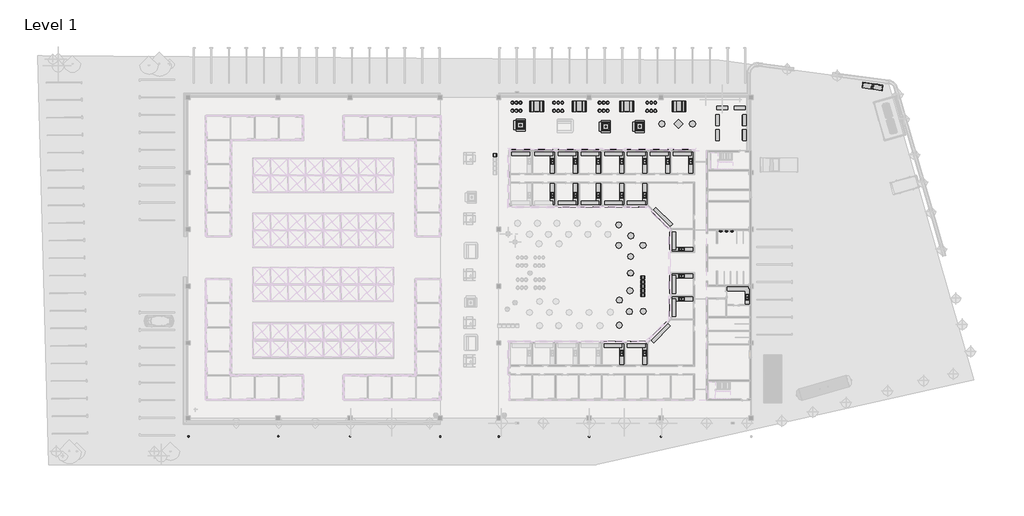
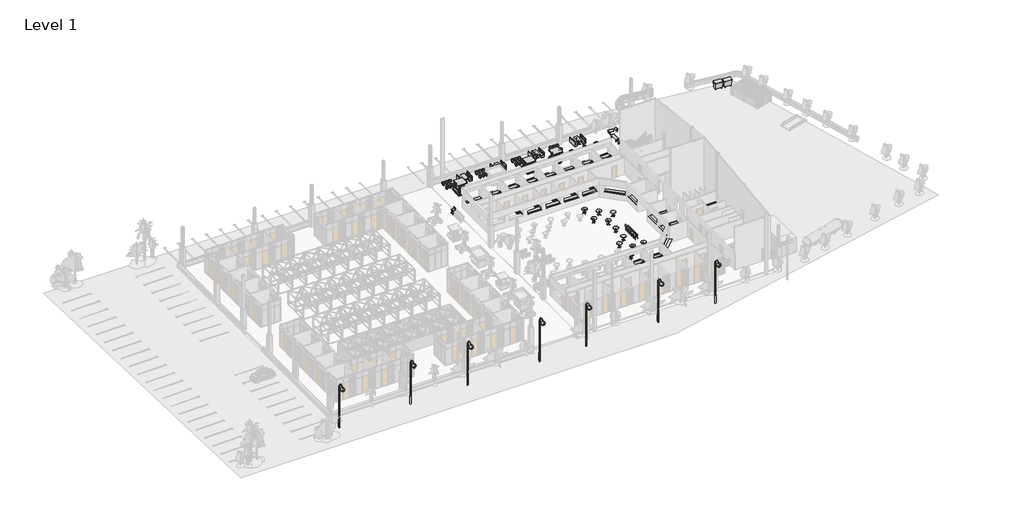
# One storey, part 30 of 32: 102 furniture elements, 21 flow terminals, 7 light fixtures, 2 proxies.
"""IFC4 building model written with IfcOpenShell, lengths in millimetres."""

from ifc_helpers import new_model, si_unit, origin, place, context, project, spatial, transform, mapped, element, save
from components import proxy_770_l_12c313d7, sink_kitchen_single_nz_760_x_535mm_626cda17, sink_kitchen_single_nz_760_x_535mm_eb015a84, urinal_wall_m_urinal_wall_m_4b0fecbf, furniture_c6f59ad9, furniture_1400_523aa014, furniture_1400_a287dd1e, furniture_500x1500_900b8abb, furniture_600mm_depth_4546873e, furniture_650x1400_aecb3e28, furniture_850x850_ff059a4b, counter_top_w_sink_nz_600mm_depth_6aa80716, counter_top_w_sink_nz_600mm_depth_e841d6a1, counter_top_island_nz_1220mm_depth_e2049a35, counter_top_island_nz_1220mm_depth_f6c0dd12, counter_top_island_nz_1220mm_depth_a1c74609, counter_top_island_nz_1220mm_depth_a1e4b738, counter_top_island_nz_1220mm_depth_33d09e76, counter_top_island_nz_1220mm_depth_cad61509, r225_brown_ebbc99b0, r225_brown_f5428c6b, r425_h750_a5844c7b, red_9dfa4864, red_3fb05847, lamp_post_modern_uk_standard_4f9459b1

model = new_model("IFC4")

# Units and contexts
model_context = context("Model", 3, world=origin())
ifc_project = project(units=[si_unit("LENGTHUNIT", "METRE", prefix="MILLI")], contexts=[model_context])

# Site, building, storey
site = spatial("IfcSite", under=ifc_project)
building = spatial("IfcBuilding", under=site)
storey = spatial("IfcBuildingStorey", under=building, Name="Level 1", Elevation=2800.0)

# Proxies
placement = place(None, origin())
proxy_770_l_shape = proxy_770_l_12c313d7(model_context)
element("IfcBuildingElementProxy", 1, Name="Generic Waste Container (4 wheels) : 770 L", ObjectType="Generic Waste Container (4 wheels) : 770 L", at=placement, inside=storey, context=model_context, shape_type="MappedRepresentation", body=[
    mapped(proxy_770_l_shape, transform((3053.7185939, 9614.9553592, 1994.8), x_axis=(0.9912453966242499, -0.1320324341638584, 0.0), y_axis=(0.1320324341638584, 0.9912453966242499, 0.0), z_axis=(0.0, 0.0, 1.0))),
])
element("IfcBuildingElementProxy", 2, Name="Generic Waste Container (4 wheels) : 770 L", ObjectType="Generic Waste Container (4 wheels) : 770 L", at=placement, inside=storey, context=model_context, shape_type="MappedRepresentation", body=[
    mapped(proxy_770_l_shape, transform((4526.159369, 9408.7418661, 1994.8), x_axis=(0.9912453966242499, -0.1320324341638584, 0.0), y_axis=(0.1320324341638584, 0.9912453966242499, 0.0), z_axis=(0.0, 0.0, 1.0))),
])

# Flow terminals
sink_kitchen_single_nz_760_x_535mm_shape = sink_kitchen_single_nz_760_x_535mm_626cda17(model_context)
element("IfcFlowTerminal", 3, ObjectType="Sink Kitchen-Single (NZ) : 760 x 535mm", at=placement, inside=storey, context=model_context, shape_type="MappedRepresentation", body=[
    mapped(sink_kitchen_single_nz_760_x_535mm_shape, transform((-13276.3159073, -19265.5588963, 2800.0), x_axis=(0.0, -1.0, 0.0), y_axis=(1.0, 0.0, 0.0), z_axis=(0.0, 0.0, 1.0))),
])
element("IfcFlowTerminal", 4, ObjectType="Sink Kitchen-Single (NZ) : 760 x 535mm", at=placement, inside=storey, context=model_context, shape_type="MappedRepresentation", body=[
    mapped(sink_kitchen_single_nz_760_x_535mm_shape, transform((-20973.8793364, -740.6307191, 2800.0), x_axis=(0.0, -1.0, 0.0), y_axis=(1.0, 0.0, 0.0), z_axis=(0.0, 0.0, 1.0))),
])
element("IfcFlowTerminal", 5, ObjectType="Sink Kitchen-Single (NZ) : 760 x 535mm", at=placement, inside=storey, context=model_context, shape_type="MappedRepresentation", body=[
    mapped(sink_kitchen_single_nz_760_x_535mm_shape, transform((-24123.8793364, -740.6307191, 2800.0), x_axis=(0.0, -1.0, 0.0), y_axis=(1.0, 0.0, 0.0), z_axis=(0.0, 0.0, 1.0))),
])
element("IfcFlowTerminal", 6, ObjectType="Sink Kitchen-Single (NZ) : 760 x 535mm", at=placement, inside=storey, context=model_context, shape_type="MappedRepresentation", body=[
    mapped(sink_kitchen_single_nz_760_x_535mm_shape, transform((-27273.8793364, -740.6307191, 2800.0), x_axis=(0.0, -1.0, 0.0), y_axis=(1.0, 0.0, 0.0), z_axis=(0.0, 0.0, 1.0))),
])
element("IfcFlowTerminal", 7, ObjectType="Sink Kitchen-Single (NZ) : 760 x 535mm", at=placement, inside=storey, context=model_context, shape_type="MappedRepresentation", body=[
    mapped(sink_kitchen_single_nz_760_x_535mm_shape, transform((-30423.8793364, -740.6307191, 2800.0), x_axis=(0.0, -1.0, 0.0), y_axis=(1.0, 0.0, 0.0), z_axis=(0.0, 0.0, 1.0))),
])
element("IfcFlowTerminal", 8, ObjectType="Sink Kitchen-Single (NZ) : 760 x 535mm", at=placement, inside=storey, context=model_context, shape_type="MappedRepresentation", body=[
    mapped(sink_kitchen_single_nz_760_x_535mm_shape, transform((-33628.2510766, -740.6307191, 2800.0), x_axis=(0.0, -1.0, 0.0), y_axis=(1.0, 0.0, 0.0), z_axis=(0.0, 0.0, 1.0))),
])
element("IfcFlowTerminal", 9, ObjectType="Sink Kitchen-Single (NZ) : 760 x 535mm", at=placement, inside=storey, context=model_context, shape_type="MappedRepresentation", body=[
    mapped(sink_kitchen_single_nz_760_x_535mm_shape, transform((-36724.2510766, -740.6307191, 2800.0), x_axis=(0.0, -1.0, 0.0), y_axis=(1.0, 0.0, 0.0), z_axis=(0.0, 0.0, 1.0))),
])
element("IfcFlowTerminal", 10, ObjectType="Sink Kitchen-Single (NZ) : 760 x 535mm", at=placement, inside=storey, context=model_context, shape_type="MappedRepresentation", body=[
    mapped(sink_kitchen_single_nz_760_x_535mm_shape, transform((-39874.2510766, -740.6307191, 2800.0), x_axis=(0.0, -1.0, 0.0), y_axis=(1.0, 0.0, 0.0), z_axis=(0.0, 0.0, 1.0))),
])
element("IfcFlowTerminal", 11, ObjectType="Sink Kitchen-Single (NZ) : 760 x 535mm", at=placement, inside=storey, context=model_context, shape_type="MappedRepresentation", body=[
    mapped(sink_kitchen_single_nz_760_x_535mm_shape, transform((-27273.8793364, -26940.6307191, 2800.0), x_axis=(0.0, -1.0, 0.0), y_axis=(1.0, 0.0, 0.0), z_axis=(0.0, 0.0, 1.0))),
])
element("IfcFlowTerminal", 12, ObjectType="Sink Kitchen-Single (NZ) : 760 x 535mm", at=placement, inside=storey, context=model_context, shape_type="MappedRepresentation", body=[
    mapped(sink_kitchen_single_nz_760_x_535mm_shape, transform((-30423.8793364, -26940.6307191, 2800.0), x_axis=(0.0, -1.0, 0.0), y_axis=(1.0, 0.0, 0.0), z_axis=(0.0, 0.0, 1.0))),
])
element("IfcFlowTerminal", 13, ObjectType="Sink Kitchen-Single (NZ) : 760 x 535mm", at=placement, inside=storey, context=model_context, shape_type="MappedRepresentation", body=[
    mapped(sink_kitchen_single_nz_760_x_535mm_shape, transform((-22301.2231758, -19518.8653607, 2800.0), x_axis=(1.0, 0.0, 0.0), y_axis=(0.0, 1.0, 0.0), z_axis=(0.0, 0.0, 1.0))),
])
element("IfcFlowTerminal", 14, ObjectType="Sink Kitchen-Single (NZ) : 760 x 535mm", at=placement, inside=storey, context=model_context, shape_type="MappedRepresentation", body=[
    mapped(sink_kitchen_single_nz_760_x_535mm_shape, transform((-22301.2231758, -16368.8653607, 2800.0), x_axis=(1.0, 0.0, 0.0), y_axis=(0.0, 1.0, 0.0), z_axis=(0.0, 0.0, 1.0))),
])
sink_kitchen_single_nz_760_x_535mm_2_shape = sink_kitchen_single_nz_760_x_535mm_eb015a84(model_context)
element("IfcFlowTerminal", 15, ObjectType="Sink Kitchen-Single (NZ) : 760 x 535mm", at=placement, inside=storey, context=model_context, shape_type="MappedRepresentation", body=[
    mapped(sink_kitchen_single_nz_760_x_535mm_2_shape, transform((-27273.8793364, -5371.2092002, 2800.0), x_axis=(0.0, 1.0, 0.0), y_axis=(-1.0, 0.0, 0.0), z_axis=(0.0, 0.0, 1.0))),
])
element("IfcFlowTerminal", 16, ObjectType="Sink Kitchen-Single (NZ) : 760 x 535mm", at=placement, inside=storey, context=model_context, shape_type="MappedRepresentation", body=[
    mapped(sink_kitchen_single_nz_760_x_535mm_2_shape, transform((-30423.8793364, -5371.2092002, 2800.0), x_axis=(0.0, 1.0, 0.0), y_axis=(-1.0, 0.0, 0.0), z_axis=(0.0, 0.0, 1.0))),
])
element("IfcFlowTerminal", 17, ObjectType="Sink Kitchen-Single (NZ) : 760 x 535mm", at=placement, inside=storey, context=model_context, shape_type="MappedRepresentation", body=[
    mapped(sink_kitchen_single_nz_760_x_535mm_2_shape, transform((-33628.2510766, -5371.2092002, 2800.0), x_axis=(0.0, 1.0, 0.0), y_axis=(-1.0, 0.0, 0.0), z_axis=(0.0, 0.0, 1.0))),
])
element("IfcFlowTerminal", 18, ObjectType="Sink Kitchen-Single (NZ) : 760 x 535mm", at=placement, inside=storey, context=model_context, shape_type="MappedRepresentation", body=[
    mapped(sink_kitchen_single_nz_760_x_535mm_2_shape, transform((-36724.2510766, -5371.2092002, 2800.0), x_axis=(0.0, 1.0, 0.0), y_axis=(-1.0, 0.0, 0.0), z_axis=(0.0, 0.0, 1.0))),
])
element("IfcFlowTerminal", 19, ObjectType="Sink Kitchen-Single (NZ) : 760 x 535mm", at=placement, inside=storey, context=model_context, shape_type="MappedRepresentation", body=[
    mapped(sink_kitchen_single_nz_760_x_535mm_2_shape, transform((-39874.2510766, -5371.2092002, 2800.0), x_axis=(0.0, 1.0, 0.0), y_axis=(-1.0, 0.0, 0.0), z_axis=(0.0, 0.0, 1.0))),
])
element("IfcFlowTerminal", 20, ObjectType="Sink Kitchen-Single (NZ) : 760 x 535mm", at=placement, inside=storey, context=model_context, shape_type="MappedRepresentation", body=[
    mapped(sink_kitchen_single_nz_760_x_535mm_2_shape, transform((-22301.2231758, -12792.9745585, 2800.0), x_axis=(1.0, 0.0, 0.0), y_axis=(0.0, 1.0, 0.0), z_axis=(0.0, 0.0, 1.0))),
])
urinal_wall_m_urinal_wall_m_shape = urinal_wall_m_urinal_wall_m_4b0fecbf(model_context)
element("IfcFlowTerminal", 21, ObjectType="Urinal-Wall (M) : Urinal-Wall (M)", at=placement, inside=storey, context=model_context, shape_type="MappedRepresentation", body=[
    mapped(urinal_wall_m_urinal_wall_m_shape, transform((-15296.2132687, -10105.9199596, 2800.0), x_axis=(1.0, 0.0, 0.0), y_axis=(0.0, 1.0, 0.0), z_axis=(0.0, 0.0, 1.0))),
])
element("IfcFlowTerminal", 22, ObjectType="Urinal-Wall (M) : Urinal-Wall (M)", at=placement, inside=storey, context=model_context, shape_type="MappedRepresentation", body=[
    mapped(urinal_wall_m_urinal_wall_m_shape, transform((-16026.2132687, -10105.9199596, 2800.0), x_axis=(1.0, 0.0, 0.0), y_axis=(0.0, 1.0, 0.0), z_axis=(0.0, 0.0, 1.0))),
])
element("IfcFlowTerminal", 23, ObjectType="Urinal-Wall (M) : Urinal-Wall (M)", at=placement, inside=storey, context=model_context, shape_type="MappedRepresentation", body=[
    mapped(urinal_wall_m_urinal_wall_m_shape, transform((-16826.2132687, -10105.9199596, 2800.0), x_axis=(1.0, 0.0, 0.0), y_axis=(0.0, 1.0, 0.0), z_axis=(0.0, 0.0, 1.0))),
])

# Furniture
furniture_shape = furniture_c6f59ad9(model_context)
element("IfcFurniture", 24, ObjectType="Mall_Kiosk_12196 : Mall_Kiosk_12196", at=placement, inside=storey, context=model_context, shape_type="MappedRepresentation", body=[
    mapped(furniture_shape, transform((-44260.9339353, 4534.4291691, 2800.0), x_axis=(0.0, -1.0, 0.0), y_axis=(1.0, 0.0, 0.0), z_axis=(0.0, 0.0, 1.0))),
])
element("IfcFurniture", 25, ObjectType="Mall_Kiosk_12196 : Mall_Kiosk_12196", at=placement, inside=storey, context=model_context, shape_type="MappedRepresentation", body=[
    mapped(furniture_shape, transform((-32610.9339353, 4325.21801, 2800.0), x_axis=(0.0, -1.0, 0.0), y_axis=(1.0, 0.0, 0.0), z_axis=(0.0, 0.0, 1.0))),
])
element("IfcFurniture", 26, ObjectType="Mall_Kiosk_12196 : Mall_Kiosk_12196", at=placement, inside=storey, context=model_context, shape_type="MappedRepresentation", body=[
    mapped(furniture_shape, transform((-28010.9339353, 4344.2372062, 2800.0), x_axis=(0.0, -1.0, 0.0), y_axis=(1.0, 0.0, 0.0), z_axis=(0.0, 0.0, 1.0))),
])
furniture_1400_shape = furniture_1400_523aa014(model_context)
element("IfcFurniture", 27, ObjectType="TN.RES.Bench04 : 1400", at=placement, inside=storey, context=model_context, shape_type="MappedRepresentation", body=[
    mapped(furniture_1400_shape, transform((-23560.9339353, 6092.0800404, 2800.0), x_axis=(0.0, 1.0, 0.0), y_axis=(-1.0, 0.0, 0.0), z_axis=(0.0, 0.0, 1.0))),
])
element("IfcFurniture", 28, ObjectType="TN.RES.Bench04 : 1400", at=placement, inside=storey, context=model_context, shape_type="MappedRepresentation", body=[
    mapped(furniture_1400_shape, transform((-30691.591055, 6092.0800404, 2800.0), x_axis=(0.0, 1.0, 0.0), y_axis=(-1.0, 0.0, 0.0), z_axis=(0.0, 0.0, 1.0))),
])
element("IfcFurniture", 29, ObjectType="TN.RES.Bench04 : 1400", at=placement, inside=storey, context=model_context, shape_type="MappedRepresentation", body=[
    mapped(furniture_1400_shape, transform((-37191.591055, 6092.0800404, 2800.0), x_axis=(0.0, 1.0, 0.0), y_axis=(-1.0, 0.0, 0.0), z_axis=(0.0, 0.0, 1.0))),
])
element("IfcFurniture", 30, ObjectType="TN.RES.Bench04 : 1400", at=placement, inside=storey, context=model_context, shape_type="MappedRepresentation", body=[
    mapped(furniture_1400_shape, transform((-42991.591055, 6092.0800404, 2800.0), x_axis=(0.0, 1.0, 0.0), y_axis=(-1.0, 0.0, 0.0), z_axis=(0.0, 0.0, 1.0))),
])
furniture_1400_2_shape = furniture_1400_a287dd1e(model_context)
element("IfcFurniture", 31, ObjectType="TN.RES.Bench04 : 1400", at=placement, inside=storey, context=model_context, shape_type="MappedRepresentation", body=[
    mapped(furniture_1400_2_shape, transform((-21680.2768155, 6092.0800404, 2800.0), x_axis=(0.0, 1.0, 0.0), y_axis=(-1.0, 0.0, 0.0), z_axis=(0.0, 0.0, 1.0))),
])
element("IfcFurniture", 32, ObjectType="TN.RES.Bench04 : 1400", at=placement, inside=storey, context=model_context, shape_type="MappedRepresentation", body=[
    mapped(furniture_1400_2_shape, transform((-28810.9339353, 6092.0800404, 2800.0), x_axis=(0.0, 1.0, 0.0), y_axis=(-1.0, 0.0, 0.0), z_axis=(0.0, 0.0, 1.0))),
])
element("IfcFurniture", 33, ObjectType="TN.RES.Bench04 : 1400", at=placement, inside=storey, context=model_context, shape_type="MappedRepresentation", body=[
    mapped(furniture_1400_2_shape, transform((-35310.9339353, 6092.0800404, 2800.0), x_axis=(0.0, 1.0, 0.0), y_axis=(-1.0, 0.0, 0.0), z_axis=(0.0, 0.0, 1.0))),
])
element("IfcFurniture", 34, ObjectType="TN.RES.Bench04 : 1400", at=placement, inside=storey, context=model_context, shape_type="MappedRepresentation", body=[
    mapped(furniture_1400_2_shape, transform((-41110.9339353, 6092.0800404, 2800.0), x_axis=(0.0, 1.0, 0.0), y_axis=(-1.0, 0.0, 0.0), z_axis=(0.0, 0.0, 1.0))),
])
furniture_500x1500_shape = furniture_500x1500_900b8abb(model_context)
element("IfcFurniture", 35, ObjectType="TN.RES.Bench01 : 500x1500", at=placement, inside=storey, context=model_context, shape_type="MappedRepresentation", body=[
    mapped(furniture_500x1500_shape, transform((-13460.7705062, 3624.5434969, 2800.0), x_axis=(0.0, -1.0, 0.0), y_axis=(1.0, 0.0, 0.0), z_axis=(0.0, 0.0, 1.0))),
])
element("IfcFurniture", 36, ObjectType="TN.RES.Bench01 : 500x1500", at=placement, inside=storey, context=model_context, shape_type="MappedRepresentation", body=[
    mapped(furniture_500x1500_shape, transform((-13460.7705062, 5644.0800404, 2800.0), x_axis=(0.0, -1.0, 0.0), y_axis=(1.0, 0.0, 0.0), z_axis=(0.0, 0.0, 1.0))),
])
element("IfcFurniture", 37, ObjectType="TN.RES.Bench01 : 500x1500", at=placement, inside=storey, context=model_context, shape_type="MappedRepresentation", body=[
    mapped(furniture_500x1500_shape, transform((-15060.7705062, 6844.0800404, 2800.0), x_axis=(1.0, 0.0, 0.0), y_axis=(0.0, 1.0, 0.0), z_axis=(0.0, 0.0, 1.0))),
])
element("IfcFurniture", 38, ObjectType="TN.RES.Bench01 : 500x1500", at=placement, inside=storey, context=model_context, shape_type="MappedRepresentation", body=[
    mapped(furniture_500x1500_shape, transform((-17126.943551, 3624.5434969, 2800.0), x_axis=(0.0, -1.0, 0.0), y_axis=(1.0, 0.0, 0.0), z_axis=(0.0, 0.0, 1.0))),
])
element("IfcFurniture", 39, ObjectType="TN.RES.Bench01 : 500x1500", at=placement, inside=storey, context=model_context, shape_type="MappedRepresentation", body=[
    mapped(furniture_500x1500_shape, transform((-17126.943551, 5644.0800404, 2800.0), x_axis=(0.0, -1.0, 0.0), y_axis=(1.0, 0.0, 0.0), z_axis=(0.0, 0.0, 1.0))),
])
element("IfcFurniture", 40, ObjectType="TN.RES.Bench01 : 500x1500", at=placement, inside=storey, context=model_context, shape_type="MappedRepresentation", body=[
    mapped(furniture_500x1500_shape, transform((-17460.7705062, 6844.0800404, 2800.0), x_axis=(1.0, 0.0, 0.0), y_axis=(0.0, 1.0, 0.0), z_axis=(0.0, 0.0, 1.0))),
])
furniture_600mm_depth_shape = furniture_600mm_depth_4546873e(model_context)
element("IfcFurniture", 41, ObjectType="Counter Top-L Shaped w Sink (NZ) : 600mm Depth", at=placement, inside=storey, context=model_context, shape_type="MappedRepresentation", body=[
    mapped(furniture_600mm_depth_shape, transform((-12960.7705062, -19006.3822547, 2800.0), x_axis=(0.0, -1.0, 0.0), y_axis=(1.0, 0.0, 0.0), z_axis=(0.0, 0.0, 1.0))),
])
furniture_650x1400_shape = furniture_650x1400_aecb3e28(model_context)
element("IfcFurniture", 42, ObjectType="TN.RES.Table02 : 650x1400", at=placement, inside=storey, context=model_context, shape_type="MappedRepresentation", body=[
    mapped(furniture_650x1400_shape, transform((-22620.6053754, 6794.0800404, 2800.0), x_axis=(0.0, -1.0, 0.0), y_axis=(1.0, 0.0, 0.0), z_axis=(0.0, 0.0, 1.0))),
])
element("IfcFurniture", 43, ObjectType="TN.RES.Table02 : 650x1400", at=placement, inside=storey, context=model_context, shape_type="MappedRepresentation", body=[
    mapped(furniture_650x1400_shape, transform((-29751.2624952, 6794.0800404, 2800.0), x_axis=(0.0, -1.0, 0.0), y_axis=(1.0, 0.0, 0.0), z_axis=(0.0, 0.0, 1.0))),
])
element("IfcFurniture", 44, ObjectType="TN.RES.Table02 : 650x1400", at=placement, inside=storey, context=model_context, shape_type="MappedRepresentation", body=[
    mapped(furniture_650x1400_shape, transform((-36251.2624952, 6794.0800404, 2800.0), x_axis=(0.0, -1.0, 0.0), y_axis=(1.0, 0.0, 0.0), z_axis=(0.0, 0.0, 1.0))),
])
element("IfcFurniture", 45, ObjectType="TN.RES.Table02 : 650x1400", at=placement, inside=storey, context=model_context, shape_type="MappedRepresentation", body=[
    mapped(furniture_650x1400_shape, transform((-42051.2624952, 6794.0800404, 2800.0), x_axis=(0.0, -1.0, 0.0), y_axis=(1.0, 0.0, 0.0), z_axis=(0.0, 0.0, 1.0))),
])
furniture_850x850_shape = furniture_850x850_ff059a4b(model_context)
element("IfcFurniture", 46, ObjectType="TN.RES.Table01 : 850x850", at=placement, inside=storey, context=model_context, shape_type="MappedRepresentation", body=[
    mapped(furniture_850x850_shape, transform((-22701.9274074, 4395.5407497, 2800.0), x_axis=(-0.7071067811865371, 0.707106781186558, 0.0), y_axis=(-0.707106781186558, -0.7071067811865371, 0.0), z_axis=(0.0, 0.0, 1.0))),
])
counter_top_w_sink_nz_600mm_depth_shape = counter_top_w_sink_nz_600mm_depth_6aa80716(model_context)
element("IfcFurniture", 47, ObjectType="Counter Top w Sink (NZ) : 600mm Depth", at=placement, inside=storey, context=model_context, shape_type="MappedRepresentation", body=[
    mapped(counter_top_w_sink_nz_600mm_depth_shape, transform((-20660.9339353, -606.3822547, 2800.0), x_axis=(0.0, -1.0, 0.0), y_axis=(1.0, 0.0, 0.0), z_axis=(0.0, 0.0, 1.0))),
])
element("IfcFurniture", 48, ObjectType="Counter Top w Sink (NZ) : 600mm Depth", at=placement, inside=storey, context=model_context, shape_type="MappedRepresentation", body=[
    mapped(counter_top_w_sink_nz_600mm_depth_shape, transform((-23810.9339353, -606.3822547, 2800.0), x_axis=(0.0, -1.0, 0.0), y_axis=(1.0, 0.0, 0.0), z_axis=(0.0, 0.0, 1.0))),
])
element("IfcFurniture", 49, ObjectType="Counter Top w Sink (NZ) : 600mm Depth", at=placement, inside=storey, context=model_context, shape_type="MappedRepresentation", body=[
    mapped(counter_top_w_sink_nz_600mm_depth_shape, transform((-26960.9339353, -606.3822547, 2800.0), x_axis=(0.0, -1.0, 0.0), y_axis=(1.0, 0.0, 0.0), z_axis=(0.0, 0.0, 1.0))),
])
element("IfcFurniture", 50, ObjectType="Counter Top w Sink (NZ) : 600mm Depth", at=placement, inside=storey, context=model_context, shape_type="MappedRepresentation", body=[
    mapped(counter_top_w_sink_nz_600mm_depth_shape, transform((-30110.9339353, -606.3822547, 2800.0), x_axis=(0.0, -1.0, 0.0), y_axis=(1.0, 0.0, 0.0), z_axis=(0.0, 0.0, 1.0))),
])
element("IfcFurniture", 51, ObjectType="Counter Top w Sink (NZ) : 600mm Depth", at=placement, inside=storey, context=model_context, shape_type="MappedRepresentation", body=[
    mapped(counter_top_w_sink_nz_600mm_depth_shape, transform((-33315.3056755, -606.3822547, 2800.0), x_axis=(0.0, -1.0, 0.0), y_axis=(1.0, 0.0, 0.0), z_axis=(0.0, 0.0, 1.0))),
])
element("IfcFurniture", 52, ObjectType="Counter Top w Sink (NZ) : 600mm Depth", at=placement, inside=storey, context=model_context, shape_type="MappedRepresentation", body=[
    mapped(counter_top_w_sink_nz_600mm_depth_shape, transform((-36411.3056755, -606.3822547, 2800.0), x_axis=(0.0, -1.0, 0.0), y_axis=(1.0, 0.0, 0.0), z_axis=(0.0, 0.0, 1.0))),
])
element("IfcFurniture", 53, ObjectType="Counter Top w Sink (NZ) : 600mm Depth", at=placement, inside=storey, context=model_context, shape_type="MappedRepresentation", body=[
    mapped(counter_top_w_sink_nz_600mm_depth_shape, transform((-39561.3056755, -606.3822547, 2800.0), x_axis=(0.0, -1.0, 0.0), y_axis=(1.0, 0.0, 0.0), z_axis=(0.0, 0.0, 1.0))),
])
element("IfcFurniture", 54, ObjectType="Counter Top w Sink (NZ) : 600mm Depth", at=placement, inside=storey, context=model_context, shape_type="MappedRepresentation", body=[
    mapped(counter_top_w_sink_nz_600mm_depth_shape, transform((-26960.9339353, -26806.3822547, 2800.0), x_axis=(0.0, -1.0, 0.0), y_axis=(1.0, 0.0, 0.0), z_axis=(0.0, 0.0, 1.0))),
])
element("IfcFurniture", 55, ObjectType="Counter Top w Sink (NZ) : 600mm Depth", at=placement, inside=storey, context=model_context, shape_type="MappedRepresentation", body=[
    mapped(counter_top_w_sink_nz_600mm_depth_shape, transform((-30110.9339353, -26806.3822547, 2800.0), x_axis=(0.0, -1.0, 0.0), y_axis=(1.0, 0.0, 0.0), z_axis=(0.0, 0.0, 1.0))),
])
element("IfcFurniture", 56, ObjectType="Counter Top w Sink (NZ) : 600mm Depth", at=placement, inside=storey, context=model_context, shape_type="MappedRepresentation", body=[
    mapped(counter_top_w_sink_nz_600mm_depth_shape, transform((-22435.4716402, -19205.9199596, 2800.0), x_axis=(1.0, 0.0, 0.0), y_axis=(0.0, 1.0, 0.0), z_axis=(0.0, 0.0, 1.0))),
])
element("IfcFurniture", 57, ObjectType="Counter Top w Sink (NZ) : 600mm Depth", at=placement, inside=storey, context=model_context, shape_type="MappedRepresentation", body=[
    mapped(counter_top_w_sink_nz_600mm_depth_shape, transform((-22435.4716402, -16055.9199596, 2800.0), x_axis=(1.0, 0.0, 0.0), y_axis=(0.0, 1.0, 0.0), z_axis=(0.0, 0.0, 1.0))),
])
counter_top_w_sink_nz_600mm_depth_2_shape = counter_top_w_sink_nz_600mm_depth_e841d6a1(model_context)
element("IfcFurniture", 58, ObjectType="Counter Top w Sink (NZ) : 600mm Depth", at=placement, inside=storey, context=model_context, shape_type="MappedRepresentation", body=[
    mapped(counter_top_w_sink_nz_600mm_depth_2_shape, transform((-26960.9339353, -5505.4576645, 2800.0), x_axis=(0.0, 1.0, 0.0), y_axis=(-1.0, 0.0, 0.0), z_axis=(0.0, 0.0, 1.0))),
])
element("IfcFurniture", 59, ObjectType="Counter Top w Sink (NZ) : 600mm Depth", at=placement, inside=storey, context=model_context, shape_type="MappedRepresentation", body=[
    mapped(counter_top_w_sink_nz_600mm_depth_2_shape, transform((-30110.9339353, -5505.4576645, 2800.0), x_axis=(0.0, 1.0, 0.0), y_axis=(-1.0, 0.0, 0.0), z_axis=(0.0, 0.0, 1.0))),
])
element("IfcFurniture", 60, ObjectType="Counter Top w Sink (NZ) : 600mm Depth", at=placement, inside=storey, context=model_context, shape_type="MappedRepresentation", body=[
    mapped(counter_top_w_sink_nz_600mm_depth_2_shape, transform((-33315.3056755, -5505.4576645, 2800.0), x_axis=(0.0, 1.0, 0.0), y_axis=(-1.0, 0.0, 0.0), z_axis=(0.0, 0.0, 1.0))),
])
element("IfcFurniture", 61, ObjectType="Counter Top w Sink (NZ) : 600mm Depth", at=placement, inside=storey, context=model_context, shape_type="MappedRepresentation", body=[
    mapped(counter_top_w_sink_nz_600mm_depth_2_shape, transform((-36411.3056755, -5505.4576645, 2800.0), x_axis=(0.0, 1.0, 0.0), y_axis=(-1.0, 0.0, 0.0), z_axis=(0.0, 0.0, 1.0))),
])
element("IfcFurniture", 62, ObjectType="Counter Top w Sink (NZ) : 600mm Depth", at=placement, inside=storey, context=model_context, shape_type="MappedRepresentation", body=[
    mapped(counter_top_w_sink_nz_600mm_depth_2_shape, transform((-39561.3056755, -5505.4576645, 2800.0), x_axis=(0.0, 1.0, 0.0), y_axis=(-1.0, 0.0, 0.0), z_axis=(0.0, 0.0, 1.0))),
])
element("IfcFurniture", 63, ObjectType="Counter Top w Sink (NZ) : 600mm Depth", at=placement, inside=storey, context=model_context, shape_type="MappedRepresentation", body=[
    mapped(counter_top_w_sink_nz_600mm_depth_2_shape, transform((-22435.4716402, -13105.9199596, 2800.0), x_axis=(1.0, 0.0, 0.0), y_axis=(0.0, 1.0, 0.0), z_axis=(0.0, 0.0, 1.0))),
])
counter_top_island_nz_1220mm_depth_shape = counter_top_island_nz_1220mm_depth_e2049a35(model_context)
element("IfcFurniture", 64, ObjectType="Counter Top-Island (NZ) : 1220mm Depth", at=placement, inside=storey, context=model_context, shape_type="MappedRepresentation", body=[
    mapped(counter_top_island_nz_1220mm_depth_shape, transform((-25311.3962304, 79.0800404, 3100.0), x_axis=(-1.0, 0.0, 0.0), y_axis=(0.0, -1.0, 0.0), z_axis=(0.0, 0.0, 1.0))),
])
element("IfcFurniture", 65, ObjectType="Counter Top-Island (NZ) : 1220mm Depth", at=placement, inside=storey, context=model_context, shape_type="MappedRepresentation", body=[
    mapped(counter_top_island_nz_1220mm_depth_shape, transform((-28436.3962304, 79.0800404, 3100.0), x_axis=(-1.0, 0.0, 0.0), y_axis=(0.0, -1.0, 0.0), z_axis=(0.0, 0.0, 1.0))),
])
element("IfcFurniture", 66, ObjectType="Counter Top-Island (NZ) : 1220mm Depth", at=placement, inside=storey, context=model_context, shape_type="MappedRepresentation", body=[
    mapped(counter_top_island_nz_1220mm_depth_shape, transform((-31566.3962304, 79.0800404, 3100.0), x_axis=(-1.0, 0.0, 0.0), y_axis=(0.0, -1.0, 0.0), z_axis=(0.0, 0.0, 1.0))),
])
element("IfcFurniture", 67, ObjectType="Counter Top-Island (NZ) : 1220mm Depth", at=placement, inside=storey, context=model_context, shape_type="MappedRepresentation", body=[
    mapped(counter_top_island_nz_1220mm_depth_shape, transform((-34761.3962304, 79.0800404, 3100.0), x_axis=(-1.0, 0.0, 0.0), y_axis=(0.0, -1.0, 0.0), z_axis=(0.0, 0.0, 1.0))),
])
element("IfcFurniture", 68, ObjectType="Counter Top-Island (NZ) : 1220mm Depth", at=placement, inside=storey, context=model_context, shape_type="MappedRepresentation", body=[
    mapped(counter_top_island_nz_1220mm_depth_shape, transform((-37907.3962304, 79.0800404, 3100.0), x_axis=(-1.0, 0.0, 0.0), y_axis=(0.0, -1.0, 0.0), z_axis=(0.0, 0.0, 1.0))),
])
element("IfcFurniture", 69, ObjectType="Counter Top-Island (NZ) : 1220mm Depth", at=placement, inside=storey, context=model_context, shape_type="MappedRepresentation", body=[
    mapped(counter_top_island_nz_1220mm_depth_shape, transform((-41086.7679705, 79.0800404, 3100.0), x_axis=(-1.0, 0.0, 0.0), y_axis=(0.0, -1.0, 0.0), z_axis=(0.0, 0.0, 1.0))),
])
element("IfcFurniture", 70, ObjectType="Counter Top-Island (NZ) : 1220mm Depth", at=placement, inside=storey, context=model_context, shape_type="MappedRepresentation", body=[
    mapped(counter_top_island_nz_1220mm_depth_shape, transform((-44207.3962304, 79.0800404, 3100.0), x_axis=(-1.0, 0.0, 0.0), y_axis=(0.0, -1.0, 0.0), z_axis=(0.0, 0.0, 1.0))),
])
element("IfcFurniture", 71, ObjectType="Counter Top-Island (NZ) : 1220mm Depth", at=placement, inside=storey, context=model_context, shape_type="MappedRepresentation", body=[
    mapped(counter_top_island_nz_1220mm_depth_shape, transform((-22161.3962304, 79.0800404, 3100.0), x_axis=(-1.0, 0.0, 0.0), y_axis=(0.0, -1.0, 0.0), z_axis=(0.0, 0.0, 1.0))),
])
counter_top_island_nz_1220mm_depth_2_shape = counter_top_island_nz_1220mm_depth_f6c0dd12(model_context)
element("IfcFurniture", 72, ObjectType="Counter Top-Island (NZ) : 1220mm Depth", at=placement, inside=storey, context=model_context, shape_type="MappedRepresentation", body=[
    mapped(counter_top_island_nz_1220mm_depth_2_shape, transform((-28436.3962304, -6190.9199596, 3100.0), x_axis=(-1.0, 0.0, 0.0), y_axis=(0.0, -1.0, 0.0), z_axis=(0.0, 0.0, 1.0))),
])
element("IfcFurniture", 73, ObjectType="Counter Top-Island (NZ) : 1220mm Depth", at=placement, inside=storey, context=model_context, shape_type="MappedRepresentation", body=[
    mapped(counter_top_island_nz_1220mm_depth_2_shape, transform((-31566.3962304, -6190.9199596, 3100.0), x_axis=(-1.0, 0.0, 0.0), y_axis=(0.0, -1.0, 0.0), z_axis=(0.0, 0.0, 1.0))),
])
element("IfcFurniture", 74, ObjectType="Counter Top-Island (NZ) : 1220mm Depth", at=placement, inside=storey, context=model_context, shape_type="MappedRepresentation", body=[
    mapped(counter_top_island_nz_1220mm_depth_2_shape, transform((-34761.3962304, -6190.9199596, 3100.0), x_axis=(-1.0, 0.0, 0.0), y_axis=(0.0, -1.0, 0.0), z_axis=(0.0, 0.0, 1.0))),
])
element("IfcFurniture", 75, ObjectType="Counter Top-Island (NZ) : 1220mm Depth", at=placement, inside=storey, context=model_context, shape_type="MappedRepresentation", body=[
    mapped(counter_top_island_nz_1220mm_depth_2_shape, transform((-37907.3962304, -6190.9199596, 3100.0), x_axis=(-1.0, 0.0, 0.0), y_axis=(0.0, -1.0, 0.0), z_axis=(0.0, 0.0, 1.0))),
])
counter_top_island_nz_1220mm_depth_3_shape = counter_top_island_nz_1220mm_depth_a1c74609(model_context)
element("IfcFurniture", 76, ObjectType="Counter Top-Island (NZ) : 1220mm Depth", at=placement, inside=storey, context=model_context, shape_type="MappedRepresentation", body=[
    mapped(counter_top_island_nz_1220mm_depth_3_shape, transform((-28461.3962304, -26120.9199596, 3100.0), x_axis=(-1.0, 0.0, 0.0), y_axis=(0.0, -1.0, 0.0), z_axis=(0.0, 0.0, 1.0))),
])
element("IfcFurniture", 77, ObjectType="Counter Top-Island (NZ) : 1220mm Depth", at=placement, inside=storey, context=model_context, shape_type="MappedRepresentation", body=[
    mapped(counter_top_island_nz_1220mm_depth_3_shape, transform((-31611.3962304, -26120.9199596, 3100.0), x_axis=(-1.0, 0.0, 0.0), y_axis=(0.0, -1.0, 0.0), z_axis=(0.0, 0.0, 1.0))),
])
element("IfcFurniture", 78, ObjectType="Counter Top-Island (NZ) : 1220mm Depth", at=placement, inside=storey, context=model_context, shape_type="MappedRepresentation", body=[
    mapped(counter_top_island_nz_1220mm_depth_3_shape, transform((-23120.9339353, -20706.3822547, 3100.0), x_axis=(0.0, -1.0, 0.0), y_axis=(1.0, 0.0, 0.0), z_axis=(0.0, 0.0, 1.0))),
])
element("IfcFurniture", 79, ObjectType="Counter Top-Island (NZ) : 1220mm Depth", at=placement, inside=storey, context=model_context, shape_type="MappedRepresentation", body=[
    mapped(counter_top_island_nz_1220mm_depth_3_shape, transform((-23120.9339353, -17556.3822547, 3100.0), x_axis=(0.0, -1.0, 0.0), y_axis=(1.0, 0.0, 0.0), z_axis=(0.0, 0.0, 1.0))),
])
counter_top_island_nz_1220mm_depth_4_shape = counter_top_island_nz_1220mm_depth_a1e4b738(model_context)
element("IfcFurniture", 80, ObjectType="Counter Top-Island (NZ) : 1220mm Depth", at=placement, inside=storey, context=model_context, shape_type="MappedRepresentation", body=[
    mapped(counter_top_island_nz_1220mm_depth_4_shape, transform((-23120.9339353, -11605.4576645, 3100.0), x_axis=(0.0, 1.0, 0.0), y_axis=(-1.0, 0.0, 0.0), z_axis=(0.0, 0.0, 1.0))),
])
counter_top_island_nz_1220mm_depth_5_shape = counter_top_island_nz_1220mm_depth_33d09e76(model_context)
element("IfcFurniture", 81, ObjectType="Counter Top-Island (NZ) : 1220mm Depth", at=placement, inside=storey, context=model_context, shape_type="MappedRepresentation", body=[
    mapped(counter_top_island_nz_1220mm_depth_5_shape, transform((-24670.9471862, -24076.7701545, 3100.0), x_axis=(-0.7071067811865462, -0.707106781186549, 0.0), y_axis=(0.707106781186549, -0.7071067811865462, 0.0), z_axis=(0.0, 0.0, 1.0))),
])
counter_top_island_nz_1220mm_depth_6_shape = counter_top_island_nz_1220mm_depth_cad61509(model_context)
element("IfcFurniture", 82, ObjectType="Counter Top-Island (NZ) : 1220mm Depth", at=placement, inside=storey, context=model_context, shape_type="MappedRepresentation", body=[
    mapped(counter_top_island_nz_1220mm_depth_6_shape, transform((-24379.6385236, -8448.1869021, 3100.0), x_axis=(-0.7071067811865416, 0.7071067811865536, 0.0), y_axis=(-0.7071067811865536, -0.7071067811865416, 0.0), z_axis=(0.0, 0.0, 1.0))),
])
r225_brown_shape = r225_brown_ebbc99b0(model_context)
element("IfcFurniture", 83, ObjectType="TN.RES.Stool01 : R225 Brown", at=placement, inside=storey, context=model_context, shape_type="MappedRepresentation", body=[
    mapped(r225_brown_shape, transform((-25870.9339353, 7294.0800404, 2800.0), x_axis=(-1.0, 0.0, 0.0), y_axis=(0.0, -1.0, 0.0), z_axis=(0.0, 0.0, 1.0))),
])
element("IfcFurniture", 84, ObjectType="TN.RES.Stool01 : R225 Brown", at=placement, inside=storey, context=model_context, shape_type="MappedRepresentation", body=[
    mapped(r225_brown_shape, transform((-26420.9339353, 7294.0800404, 2800.0), x_axis=(-1.0, 0.0, 0.0), y_axis=(0.0, -1.0, 0.0), z_axis=(0.0, 0.0, 1.0))),
])
element("IfcFurniture", 85, ObjectType="TN.RES.Stool01 : R225 Brown", at=placement, inside=storey, context=model_context, shape_type="MappedRepresentation", body=[
    mapped(r225_brown_shape, transform((-26970.9339353, 7294.0800404, 2800.0), x_axis=(-1.0, 0.0, 0.0), y_axis=(0.0, -1.0, 0.0), z_axis=(0.0, 0.0, 1.0))),
])
element("IfcFurniture", 86, ObjectType="TN.RES.Stool01 : R225 Brown", at=placement, inside=storey, context=model_context, shape_type="MappedRepresentation", body=[
    mapped(r225_brown_shape, transform((-32370.9339353, 7294.0800404, 2800.0), x_axis=(-1.0, 0.0, 0.0), y_axis=(0.0, -1.0, 0.0), z_axis=(0.0, 0.0, 1.0))),
])
element("IfcFurniture", 87, ObjectType="TN.RES.Stool01 : R225 Brown", at=placement, inside=storey, context=model_context, shape_type="MappedRepresentation", body=[
    mapped(r225_brown_shape, transform((-32920.9339353, 7294.0800404, 2800.0), x_axis=(-1.0, 0.0, 0.0), y_axis=(0.0, -1.0, 0.0), z_axis=(0.0, 0.0, 1.0))),
])
element("IfcFurniture", 88, ObjectType="TN.RES.Stool01 : R225 Brown", at=placement, inside=storey, context=model_context, shape_type="MappedRepresentation", body=[
    mapped(r225_brown_shape, transform((-33470.9339353, 7294.0800404, 2800.0), x_axis=(-1.0, 0.0, 0.0), y_axis=(0.0, -1.0, 0.0), z_axis=(0.0, 0.0, 1.0))),
])
element("IfcFurniture", 89, ObjectType="TN.RES.Stool01 : R225 Brown", at=placement, inside=storey, context=model_context, shape_type="MappedRepresentation", body=[
    mapped(r225_brown_shape, transform((-38570.9339353, 7294.0800404, 2800.0), x_axis=(-1.0, 0.0, 0.0), y_axis=(0.0, -1.0, 0.0), z_axis=(0.0, 0.0, 1.0))),
])
element("IfcFurniture", 90, ObjectType="TN.RES.Stool01 : R225 Brown", at=placement, inside=storey, context=model_context, shape_type="MappedRepresentation", body=[
    mapped(r225_brown_shape, transform((-39120.9339353, 7294.0800404, 2800.0), x_axis=(-1.0, 0.0, 0.0), y_axis=(0.0, -1.0, 0.0), z_axis=(0.0, 0.0, 1.0))),
])
element("IfcFurniture", 91, ObjectType="TN.RES.Stool01 : R225 Brown", at=placement, inside=storey, context=model_context, shape_type="MappedRepresentation", body=[
    mapped(r225_brown_shape, transform((-39670.9339353, 7294.0800404, 2800.0), x_axis=(-1.0, 0.0, 0.0), y_axis=(0.0, -1.0, 0.0), z_axis=(0.0, 0.0, 1.0))),
])
element("IfcFurniture", 92, ObjectType="TN.RES.Stool01 : R225 Brown", at=placement, inside=storey, context=model_context, shape_type="MappedRepresentation", body=[
    mapped(r225_brown_shape, transform((-44270.9339353, 7294.0800404, 2800.0), x_axis=(-1.0, 0.0, 0.0), y_axis=(0.0, -1.0, 0.0), z_axis=(0.0, 0.0, 1.0))),
])
element("IfcFurniture", 93, ObjectType="TN.RES.Stool01 : R225 Brown", at=placement, inside=storey, context=model_context, shape_type="MappedRepresentation", body=[
    mapped(r225_brown_shape, transform((-44820.9339353, 7294.0800404, 2800.0), x_axis=(-1.0, 0.0, 0.0), y_axis=(0.0, -1.0, 0.0), z_axis=(0.0, 0.0, 1.0))),
])
element("IfcFurniture", 94, ObjectType="TN.RES.Stool01 : R225 Brown", at=placement, inside=storey, context=model_context, shape_type="MappedRepresentation", body=[
    mapped(r225_brown_shape, transform((-45370.9339353, 7294.0800404, 2800.0), x_axis=(-1.0, 0.0, 0.0), y_axis=(0.0, -1.0, 0.0), z_axis=(0.0, 0.0, 1.0))),
])
r225_brown_2_shape = r225_brown_f5428c6b(model_context)
element("IfcFurniture", 95, ObjectType="TN.RES.Stool01 : R225 Brown", at=placement, inside=storey, context=model_context, shape_type="MappedRepresentation", body=[
    mapped(r225_brown_2_shape, transform((-25870.9339353, 6206.5593204, 2800.0), x_axis=(-1.0, 0.0, 0.0), y_axis=(0.0, -1.0, 0.0), z_axis=(0.0, 0.0, 1.0))),
])
element("IfcFurniture", 96, ObjectType="TN.RES.Stool01 : R225 Brown", at=placement, inside=storey, context=model_context, shape_type="MappedRepresentation", body=[
    mapped(r225_brown_2_shape, transform((-26420.9339353, 6206.5593204, 2800.0), x_axis=(-1.0, 0.0, 0.0), y_axis=(0.0, -1.0, 0.0), z_axis=(0.0, 0.0, 1.0))),
])
element("IfcFurniture", 97, ObjectType="TN.RES.Stool01 : R225 Brown", at=placement, inside=storey, context=model_context, shape_type="MappedRepresentation", body=[
    mapped(r225_brown_2_shape, transform((-26970.9339353, 6206.5593204, 2800.0), x_axis=(-1.0, 0.0, 0.0), y_axis=(0.0, -1.0, 0.0), z_axis=(0.0, 0.0, 1.0))),
])
element("IfcFurniture", 98, ObjectType="TN.RES.Stool01 : R225 Brown", at=placement, inside=storey, context=model_context, shape_type="MappedRepresentation", body=[
    mapped(r225_brown_2_shape, transform((-32370.9339353, 6206.5593204, 2800.0), x_axis=(-1.0, 0.0, 0.0), y_axis=(0.0, -1.0, 0.0), z_axis=(0.0, 0.0, 1.0))),
])
element("IfcFurniture", 99, ObjectType="TN.RES.Stool01 : R225 Brown", at=placement, inside=storey, context=model_context, shape_type="MappedRepresentation", body=[
    mapped(r225_brown_2_shape, transform((-32920.9339353, 6206.5593204, 2800.0), x_axis=(-1.0, 0.0, 0.0), y_axis=(0.0, -1.0, 0.0), z_axis=(0.0, 0.0, 1.0))),
])
element("IfcFurniture", 100, ObjectType="TN.RES.Stool01 : R225 Brown", at=placement, inside=storey, context=model_context, shape_type="MappedRepresentation", body=[
    mapped(r225_brown_2_shape, transform((-33470.9339353, 6206.5593204, 2800.0), x_axis=(-1.0, 0.0, 0.0), y_axis=(0.0, -1.0, 0.0), z_axis=(0.0, 0.0, 1.0))),
])
element("IfcFurniture", 101, ObjectType="TN.RES.Stool01 : R225 Brown", at=placement, inside=storey, context=model_context, shape_type="MappedRepresentation", body=[
    mapped(r225_brown_2_shape, transform((-38570.9339353, 6206.5593204, 2800.0), x_axis=(-1.0, 0.0, 0.0), y_axis=(0.0, -1.0, 0.0), z_axis=(0.0, 0.0, 1.0))),
])
element("IfcFurniture", 102, ObjectType="TN.RES.Stool01 : R225 Brown", at=placement, inside=storey, context=model_context, shape_type="MappedRepresentation", body=[
    mapped(r225_brown_2_shape, transform((-39120.9339353, 6206.5593204, 2800.0), x_axis=(-1.0, 0.0, 0.0), y_axis=(0.0, -1.0, 0.0), z_axis=(0.0, 0.0, 1.0))),
])
element("IfcFurniture", 103, ObjectType="TN.RES.Stool01 : R225 Brown", at=placement, inside=storey, context=model_context, shape_type="MappedRepresentation", body=[
    mapped(r225_brown_2_shape, transform((-39670.9339353, 6206.5593204, 2800.0), x_axis=(-1.0, 0.0, 0.0), y_axis=(0.0, -1.0, 0.0), z_axis=(0.0, 0.0, 1.0))),
])
element("IfcFurniture", 104, ObjectType="TN.RES.Stool01 : R225 Brown", at=placement, inside=storey, context=model_context, shape_type="MappedRepresentation", body=[
    mapped(r225_brown_2_shape, transform((-44270.9339353, 6206.5593204, 2800.0), x_axis=(-1.0, 0.0, 0.0), y_axis=(0.0, -1.0, 0.0), z_axis=(0.0, 0.0, 1.0))),
])
element("IfcFurniture", 105, ObjectType="TN.RES.Stool01 : R225 Brown", at=placement, inside=storey, context=model_context, shape_type="MappedRepresentation", body=[
    mapped(r225_brown_2_shape, transform((-44820.9339353, 6206.5593204, 2800.0), x_axis=(-1.0, 0.0, 0.0), y_axis=(0.0, -1.0, 0.0), z_axis=(0.0, 0.0, 1.0))),
])
element("IfcFurniture", 106, ObjectType="TN.RES.Stool01 : R225 Brown", at=placement, inside=storey, context=model_context, shape_type="MappedRepresentation", body=[
    mapped(r225_brown_2_shape, transform((-45370.9339353, 6206.5593204, 2800.0), x_axis=(-1.0, 0.0, 0.0), y_axis=(0.0, -1.0, 0.0), z_axis=(0.0, 0.0, 1.0))),
])
r425_h750_shape = r425_h750_a5844c7b(model_context)
element("IfcFurniture", 107, ObjectType="TN.RES.Table03 : R425 H750", at=placement, inside=storey, context=model_context, shape_type="MappedRepresentation", body=[
    mapped(r425_h750_shape, transform((-30784.7541458, -23108.8024796, 2800.0), x_axis=(-0.7071067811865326, 0.7071067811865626, 0.0), y_axis=(-0.7071067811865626, -0.7071067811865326, 0.0), z_axis=(0.0, 0.0, 1.0))),
])
element("IfcFurniture", 108, ObjectType="TN.RES.Table03 : R425 H750", at=placement, inside=storey, context=model_context, shape_type="MappedRepresentation", body=[
    mapped(r425_h750_shape, transform((-20772.2164835, 4378.1756461, 2800.0), x_axis=(0.7071067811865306, -0.7071067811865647, 0.0), y_axis=(0.7071067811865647, 0.7071067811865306, 0.0), z_axis=(0.0, 0.0, 1.0))),
])
element("IfcFurniture", 109, ObjectType="TN.RES.Table03 : R425 H750", at=placement, inside=storey, context=model_context, shape_type="MappedRepresentation", body=[
    mapped(r425_h750_shape, transform((-30851.3164553, -9419.3899434, 2800.0), x_axis=(-0.7071067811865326, 0.7071067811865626, 0.0), y_axis=(-0.7071067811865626, -0.7071067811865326, 0.0), z_axis=(0.0, 0.0, 1.0))),
])
element("IfcFurniture", 110, ObjectType="TN.RES.Table03 : R425 H750", at=placement, inside=storey, context=model_context, shape_type="MappedRepresentation", body=[
    mapped(r425_h750_shape, transform((-27511.5415266, -21235.5898605, 2800.0), x_axis=(-0.7071067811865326, 0.7071067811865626, 0.0), y_axis=(-0.7071067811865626, -0.7071067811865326, 0.0), z_axis=(0.0, 0.0, 1.0))),
])
element("IfcFurniture", 111, ObjectType="TN.RES.Table03 : R425 H750", at=placement, inside=storey, context=model_context, shape_type="MappedRepresentation", body=[
    mapped(r425_h750_shape, transform((-30771.4246131, -19683.8024796, 2800.0), x_axis=(-0.7071067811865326, 0.7071067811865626, 0.0), y_axis=(-0.7071067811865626, -0.7071067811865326, 0.0), z_axis=(0.0, 0.0, 1.0))),
])
element("IfcFurniture", 112, ObjectType="TN.RES.Table03 : R425 H750", at=placement, inside=storey, context=model_context, shape_type="MappedRepresentation", body=[
    mapped(r425_h750_shape, transform((-29242.9776361, -15993.0144329, 2800.0), x_axis=(-0.7071067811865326, 0.7071067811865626, 0.0), y_axis=(-0.7071067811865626, -0.7071067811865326, 0.0), z_axis=(0.0, 0.0, 1.0))),
])
element("IfcFurniture", 113, ObjectType="TN.RES.Table03 : R425 H750", at=placement, inside=storey, context=model_context, shape_type="MappedRepresentation", body=[
    mapped(r425_h750_shape, transform((-30848.9580959, -12221.3024796, 2800.0), x_axis=(-0.7071067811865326, 0.7071067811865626, 0.0), y_axis=(-0.7071067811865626, -0.7071067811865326, 0.0), z_axis=(0.0, 0.0, 1.0))),
])
element("IfcFurniture", 114, ObjectType="TN.RES.Table03 : R425 H750", at=placement, inside=storey, context=model_context, shape_type="MappedRepresentation", body=[
    mapped(r425_h750_shape, transform((-29231.729803, -13737.5196802, 2800.0), x_axis=(0.0, -1.0, 0.0), y_axis=(1.0, 0.0, 0.0), z_axis=(0.0, 0.0, 1.0))),
])
element("IfcFurniture", 115, ObjectType="TN.RES.Table03 : R425 H750", at=placement, inside=storey, context=model_context, shape_type="MappedRepresentation", body=[
    mapped(r425_h750_shape, transform((-29331.729803, -18397.3440421, 2800.0), x_axis=(0.0, -1.0, 0.0), y_axis=(1.0, 0.0, 0.0), z_axis=(0.0, 0.0, 1.0))),
])
element("IfcFurniture", 116, ObjectType="TN.RES.Table03 : R425 H750", at=placement, inside=storey, context=model_context, shape_type="MappedRepresentation", body=[
    mapped(r425_h750_shape, transform((-29405.5657724, -21255.6121196, 2800.0), x_axis=(0.0, -1.0, 0.0), y_axis=(1.0, 0.0, 0.0), z_axis=(0.0, 0.0, 1.0))),
])
element("IfcFurniture", 117, ObjectType="TN.RES.Table03 : R425 H750", at=placement, inside=storey, context=model_context, shape_type="MappedRepresentation", body=[
    mapped(r425_h750_shape, transform((-29205.5657724, -10886.7253765, 2800.0), x_axis=(0.0, -1.0, 0.0), y_axis=(1.0, 0.0, 0.0), z_axis=(0.0, 0.0, 1.0))),
])
element("IfcFurniture", 118, ObjectType="TN.RES.Table03 : R425 H750", at=placement, inside=storey, context=model_context, shape_type="MappedRepresentation", body=[
    mapped(r425_h750_shape, transform((-27548.9580959, -12221.3024796, 2800.0), x_axis=(-0.7071067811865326, 0.7071067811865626, 0.0), y_axis=(-0.7071067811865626, -0.7071067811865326, 0.0), z_axis=(0.0, 0.0, 1.0))),
])
element("IfcFurniture", 119, ObjectType="TN.RES.Table03 : R425 H750", at=placement, inside=storey, context=model_context, shape_type="MappedRepresentation", body=[
    mapped(r425_h750_shape, transform((-24972.2164835, 4378.1756461, 2800.0), x_axis=(0.7071067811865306, -0.7071067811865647, 0.0), y_axis=(0.7071067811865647, 0.7071067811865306, 0.0), z_axis=(0.0, 0.0, 1.0))),
])
red_shape = red_9dfa4864(model_context)
element("IfcFurniture", 120, ObjectType="TN.RES.Chair05 : Red", at=placement, inside=storey, context=model_context, shape_type="MappedRepresentation", body=[
    mapped(red_shape, transform((-47750.3056755, 119.0800404, 2800.0), x_axis=(0.0, 1.0, 0.0), y_axis=(-1.0, 0.0, 0.0), z_axis=(0.0, 0.0, 1.0))),
])
red_2_shape = red_3fb05847(model_context)
element("IfcFurniture", 121, ObjectType="TN.RES.Chair05 : Red", at=placement, inside=storey, context=model_context, shape_type="MappedRepresentation", body=[
    mapped(red_2_shape, transform((-27578.6400482, -16603.7016095, 2800.0), x_axis=(0.0, 1.0, 0.0), y_axis=(-1.0, 0.0, 0.0), z_axis=(0.0, 0.0, 1.0))),
])
element("IfcFurniture", 122, ObjectType="TN.RES.Chair05 : Red", at=placement, inside=storey, context=model_context, shape_type="MappedRepresentation", body=[
    mapped(red_2_shape, transform((-27578.6400482, -17203.7016095, 2800.0), x_axis=(0.0, 1.0, 0.0), y_axis=(-1.0, 0.0, 0.0), z_axis=(0.0, 0.0, 1.0))),
])
element("IfcFurniture", 123, ObjectType="TN.RES.Chair05 : Red", at=placement, inside=storey, context=model_context, shape_type="MappedRepresentation", body=[
    mapped(red_2_shape, transform((-27578.6400482, -17803.7016095, 2800.0), x_axis=(0.0, 1.0, 0.0), y_axis=(-1.0, 0.0, 0.0), z_axis=(0.0, 0.0, 1.0))),
])
element("IfcFurniture", 124, ObjectType="TN.RES.Chair05 : Red", at=placement, inside=storey, context=model_context, shape_type="MappedRepresentation", body=[
    mapped(red_2_shape, transform((-27578.6400482, -18403.7016095, 2800.0), x_axis=(0.0, 1.0, 0.0), y_axis=(-1.0, 0.0, 0.0), z_axis=(0.0, 0.0, 1.0))),
])
element("IfcFurniture", 125, ObjectType="TN.RES.Chair05 : Red", at=placement, inside=storey, context=model_context, shape_type="MappedRepresentation", body=[
    mapped(red_2_shape, transform((-27578.6400482, -19003.7016095, 2800.0), x_axis=(0.0, 1.0, 0.0), y_axis=(-1.0, 0.0, 0.0), z_axis=(0.0, 0.0, 1.0))),
])

# Light fixtures
lamp_post_modern_uk_standard_shape = lamp_post_modern_uk_standard_4f9459b1(model_context)
element("IfcLightFixture", 126, ObjectType="Lamp Post-Modern (UK) : Standard", at=placement, inside=storey, context=model_context, shape_type="MappedRepresentation", body=[
    mapped(lamp_post_modern_uk_standard_shape, transform((-89592.2528943, -38340.0012474, 2000.0), x_axis=(1.0, 0.0, 0.0), y_axis=(0.0, 1.0, 0.0), z_axis=(0.0, 0.0, 1.0))),
])
element("IfcLightFixture", 127, ObjectType="Lamp Post-Modern (UK) : Standard", at=placement, inside=storey, context=model_context, shape_type="MappedRepresentation", body=[
    mapped(lamp_post_modern_uk_standard_shape, transform((-67522.5881141, -38305.9199596, 2000.0), x_axis=(1.0, 0.0, 0.0), y_axis=(0.0, 1.0, 0.0), z_axis=(0.0, 0.0, 1.0))),
])
element("IfcLightFixture", 128, ObjectType="Lamp Post-Modern (UK) : Standard", at=placement, inside=storey, context=model_context, shape_type="MappedRepresentation", body=[
    mapped(lamp_post_modern_uk_standard_shape, transform((-55222.5881141, -38340.0012474, 2000.0), x_axis=(1.0, 0.0, 0.0), y_axis=(0.0, 1.0, 0.0), z_axis=(0.0, 0.0, 1.0))),
])
element("IfcLightFixture", 129, ObjectType="Lamp Post-Modern (UK) : Standard", at=placement, inside=storey, context=model_context, shape_type="MappedRepresentation", body=[
    mapped(lamp_post_modern_uk_standard_shape, transform((-47230.3056755, -38340.0012474, 2000.0), x_axis=(1.0, 0.0, 0.0), y_axis=(0.0, 1.0, 0.0), z_axis=(0.0, 0.0, 1.0))),
])
element("IfcLightFixture", 130, ObjectType="Lamp Post-Modern (UK) : Standard", at=placement, inside=storey, context=model_context, shape_type="MappedRepresentation", body=[
    mapped(lamp_post_modern_uk_standard_shape, transform((-34900.9339353, -38340.0012474, 2000.0), x_axis=(1.0, 0.0, 0.0), y_axis=(0.0, 1.0, 0.0), z_axis=(0.0, 0.0, 1.0))),
])
element("IfcLightFixture", 131, ObjectType="Lamp Post-Modern (UK) : Standard", at=placement, inside=storey, context=model_context, shape_type="MappedRepresentation", body=[
    mapped(lamp_post_modern_uk_standard_shape, transform((-25080.9339353, -38340.0012474, 2000.0), x_axis=(1.0, 0.0, 0.0), y_axis=(0.0, 1.0, 0.0), z_axis=(0.0, 0.0, 1.0))),
])
element("IfcLightFixture", 132, ObjectType="Lamp Post-Modern (UK) : Standard", at=placement, inside=storey, context=model_context, shape_type="MappedRepresentation", body=[
    mapped(lamp_post_modern_uk_standard_shape, transform((-77322.3408447, -38305.9199596, 2000.0), x_axis=(1.0, 0.0, 0.0), y_axis=(0.0, 1.0, 0.0), z_axis=(0.0, 0.0, 1.0))),
])

save(model, "model.ifc")
